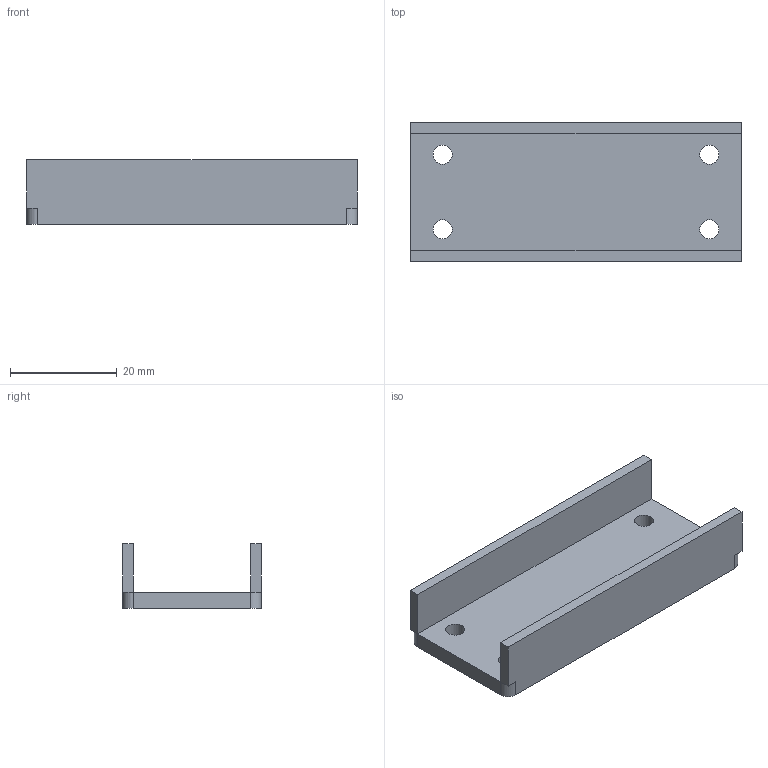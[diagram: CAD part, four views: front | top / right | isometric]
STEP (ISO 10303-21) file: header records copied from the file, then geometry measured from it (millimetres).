
FILE_DESCRIPTION(('Open CASCADE Model'),'2;1');
FILE_NAME('Open CASCADE Shape Model','2026-09-20T04:25:34',('Author'),( 'Open CASCADE'),'Open CASCADE STEP processor 7.9','Open CASCADE 7.9' ,'Unknown');
FILE_SCHEMA(('AUTOMOTIVE_DESIGN { 1 0 10303 214 1 1 1 1 }'));
Length unit declared in the file: millimetre
Products named in the file (1): Open CASCADE STEP translator 7.9 15
Bounding box: 62 x 26 x 12 mm (x, y, z)
Volume: 6935.6 mm3; surface area: 6100 mm2
Topology: 1 solids, 1 shells, 26 faces, 60 edges, 36 vertices
Faces by surface type: plane 18, cylinder 8
Full cylindrical faces by diameter (mm): 3.6 x4
Entity records: 1542 total; most frequent: CARTESIAN_POINT 267, DIRECTION 246, LINE 148, VECTOR 148, ORIENTED_EDGE 120, PCURVE 120, DEFINITIONAL_REPRESENTATION 120, EDGE_CURVE 60
